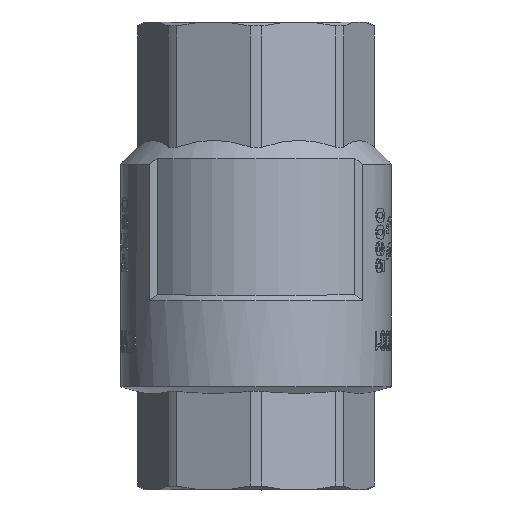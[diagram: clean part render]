
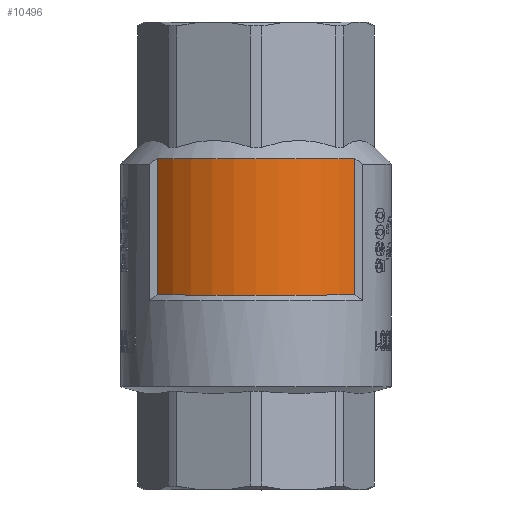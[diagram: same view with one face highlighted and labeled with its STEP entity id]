
A CAD part, front view. The second image highlights one B-rep face of the part: STEP entity #10496.
In plain terms, the highlighted cylindrical face has radius 23.25 mm (diameter 46.5 mm), a partial arc.
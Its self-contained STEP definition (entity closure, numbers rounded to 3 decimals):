
#761=CIRCLE('',#11034,23.25);
#763=CIRCLE('',#11038,23.25);
#1623=FACE_OUTER_BOUND('',#2248,.T.);
#2248=EDGE_LOOP('',(#9231,#9232,#9233,#9234));
#3430=LINE('',#28181,#4118);
#3431=LINE('',#28184,#4119);
#4118=VECTOR('',#12618,10.);
#4119=VECTOR('',#12621,10.);
#5072=VERTEX_POINT('',#28157);
#5073=VERTEX_POINT('',#28161);
#5076=VERTEX_POINT('',#28180);
#5077=VERTEX_POINT('',#28182);
#6498=EDGE_CURVE('',#5073,#5072,#761,.T.);
#6503=EDGE_CURVE('',#5072,#5076,#3430,.T.);
#6504=EDGE_CURVE('',#5077,#5076,#763,.T.);
#6505=EDGE_CURVE('',#5077,#5073,#3431,.T.);
#9231=ORIENTED_EDGE('',*,*,#6503,.T.);
#9232=ORIENTED_EDGE('',*,*,#6504,.F.);
#9233=ORIENTED_EDGE('',*,*,#6505,.T.);
#9234=ORIENTED_EDGE('',*,*,#6498,.T.);
#10006=CYLINDRICAL_SURFACE('',#11037,23.25);
#10496=ADVANCED_FACE('',(#1623),#10006,.T.);
#11034=AXIS2_PLACEMENT_3D('',#28162,#12610,#12611);
#11037=AXIS2_PLACEMENT_3D('',#28179,#12616,#12617);
#11038=AXIS2_PLACEMENT_3D('',#28183,#12619,#12620);
#12610=DIRECTION('center_axis',(0.,0.,1.));
#12611=DIRECTION('ref_axis',(1.,0.,0.));
#12616=DIRECTION('center_axis',(0.,0.,1.));
#12617=DIRECTION('ref_axis',(0.,-1.,0.));
#12618=DIRECTION('',(0.,0.,1.));
#12619=DIRECTION('center_axis',(0.,0.,1.));
#12620=DIRECTION('ref_axis',(1.,0.,0.));
#12621=DIRECTION('',(0.,0.,-1.));
#28157=CARTESIAN_POINT('',(17.764,-15.,-7.));
#28161=CARTESIAN_POINT('',(-17.764,-15.,-7.));
#28162=CARTESIAN_POINT('Origin',(0.,0.,-7.));
#28179=CARTESIAN_POINT('Origin',(0.,0.,5.25));
#28180=CARTESIAN_POINT('',(17.764,-15.,17.5));
#28181=CARTESIAN_POINT('',(17.764,-15.,5.25));
#28182=CARTESIAN_POINT('',(-17.764,-15.,17.5));
#28183=CARTESIAN_POINT('Origin',(0.,0.,17.5));
#28184=CARTESIAN_POINT('',(-17.764,-15.,5.25));
